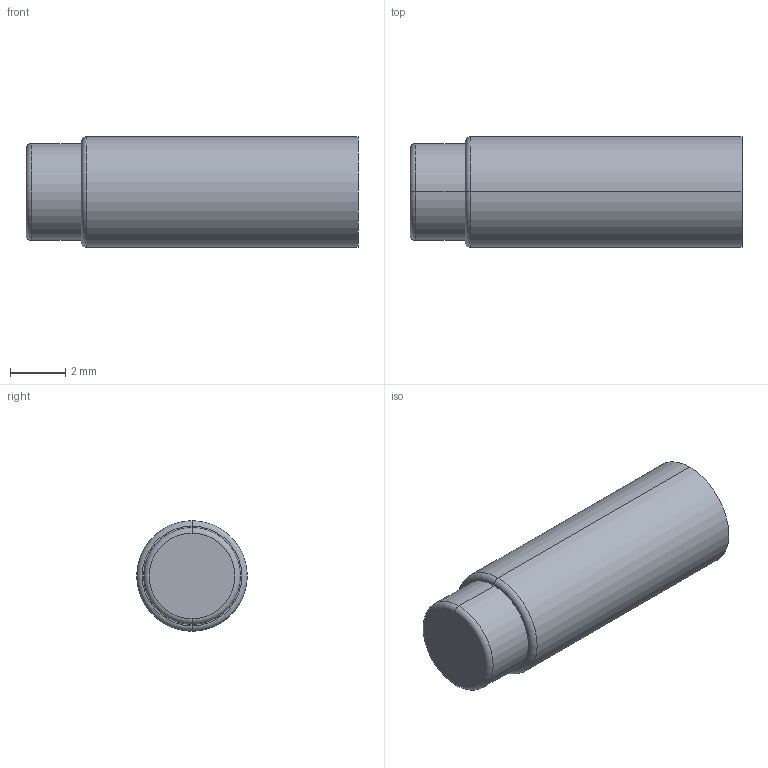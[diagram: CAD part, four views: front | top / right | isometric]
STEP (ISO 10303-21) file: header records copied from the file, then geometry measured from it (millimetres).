
FILE_DESCRIPTION((''),'2;1');
FILE_NAME('C713-01','2022-07-09T11:17:40',('Administrator'),(''),'CREO PARAMETRIC BY PTC INC, 2018400','CREO PARAMETRIC BY PTC INC, 2018400','');
FILE_SCHEMA(('CONFIG_CONTROL_DESIGN'));
Length unit declared in the file: millimetre
Products named in the file (1): C713-01
Bounding box: 12 x 4 x 4 mm (x, y, z)
Volume: 144.7 mm3; surface area: 170.7 mm2
Topology: 1 solids, 1 shells, 11 faces, 20 edges, 12 vertices
Faces by surface type: cylinder 4, torus 4, plane 3
Entity records: 316 total; most frequent: DIRECTION 58, CARTESIAN_POINT 43, ORIENTED_EDGE 40, AXIS2_PLACEMENT_3D 27, EDGE_CURVE 20, CIRCLE 16, VERTEX_POINT 12, EDGE_LOOP 12
